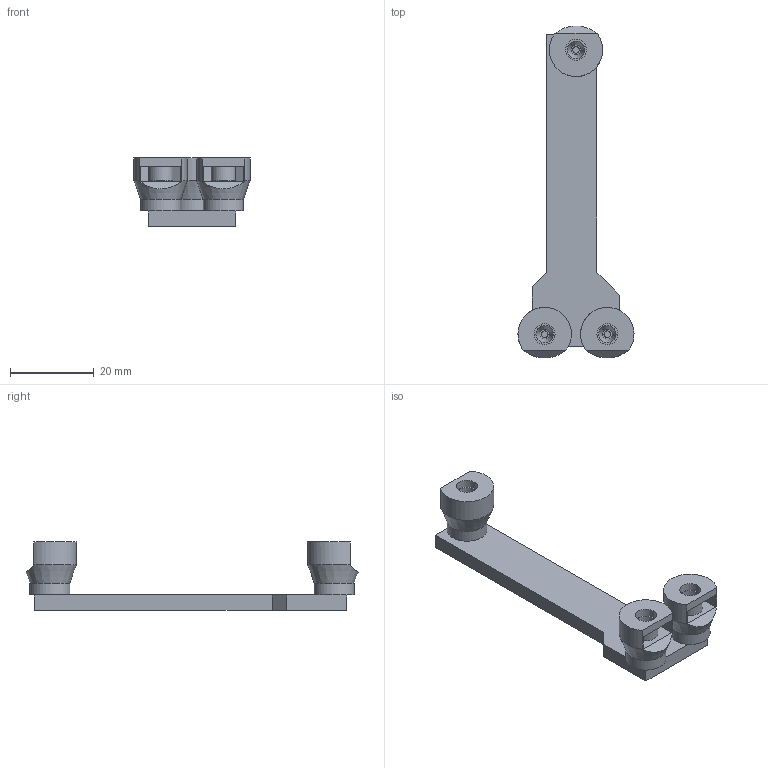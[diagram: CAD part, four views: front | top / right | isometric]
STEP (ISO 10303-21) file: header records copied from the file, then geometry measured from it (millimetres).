
FILE_DESCRIPTION(/* description */ (''),/* implementation_level */ '2;1');
FILE_NAME(/* name */ 'V:\Flow\Inventor\Mischertests\SAR.stp',/* time_stamp */ '2019-12-20T09:44:08+01:00',/* author */ ('JN'),/* organization */ (''),/* preprocessor_version */ 'ST-DEVELOPER v17',/* originating_system */ 'Autodesk Inventor 2018',/* authorisation */ '');
FILE_SCHEMA (('AUTOMOTIVE_DESIGN { 1 0 10303 214 3 1 1 }'));
Length unit declared in the file: millimetre
Products named in the file (3): SAR; Flow Reaktor 16 - Test Mischzonen 2; 10-32 Mutter einschieben
Assembly tree (4 placements, depth 2):
  SAR
    Flow Reaktor 16 - Test Mischzonen 2
    10-32 Mutter einschieben  x3
Bounding box: 27.8 x 79.52 x 16.3 mm (x, y, z)
Volume: 6057 mm3; surface area: 6750.4 mm2
Topology: 7 solids, 7 shells, 295 faces, 836 edges, 529 vertices
Faces by surface type: plane 265, cylinder 24, cone 6
Full cylindrical faces by diameter (mm): 1.6 x3, 2.4 x3, 5 x9, 5.8 x3, 9.6 x3
Entity records: 8192 total; most frequent: ORIENTED_EDGE 1456, CARTESIAN_POINT 1445, DIRECTION 1276, EDGE_CURVE 728, LINE 688, VECTOR 688, VERTEX_POINT 457, AXIS2_PLACEMENT_3D 294
